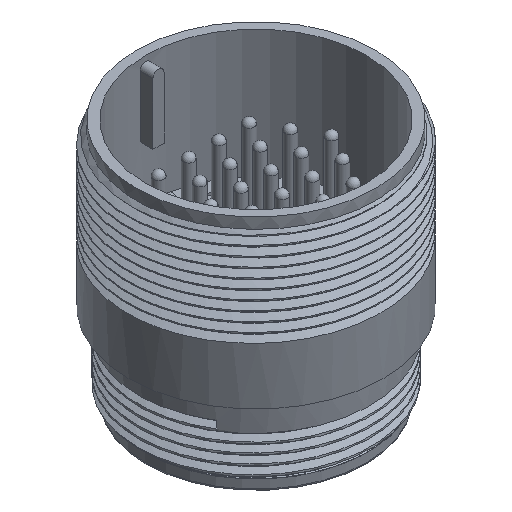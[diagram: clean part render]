
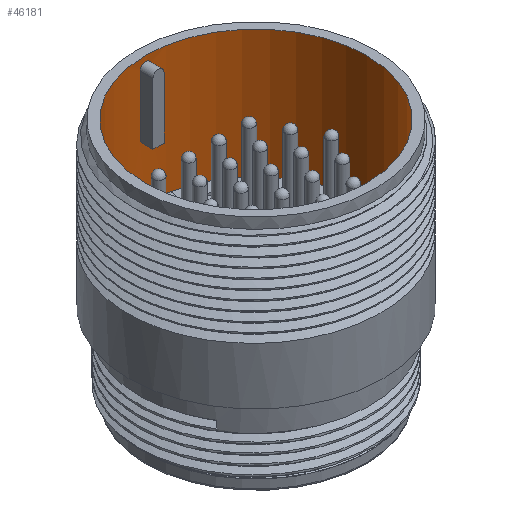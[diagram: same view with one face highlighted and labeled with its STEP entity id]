
A CAD part, isometric view. The second image highlights one B-rep face of the part: STEP entity #46181.
In plain terms, the highlighted cylindrical face has radius 16.575 mm (diameter 33.15 mm), a full revolution.
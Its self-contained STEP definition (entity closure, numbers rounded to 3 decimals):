
#277 = CIRCLE ( 'NONE', #13730, 16.575 ) ;
#757 = CARTESIAN_POINT ( 'NONE',  ( -0.66, 16.562, -1.118 ) ) ;
#2590 = EDGE_LOOP ( 'NONE', ( #6281, #37907, #36867, #41567 ) ) ;
#3984 = FACE_OUTER_BOUND ( 'NONE', #38656, .T. ) ;
#4445 = ORIENTED_EDGE ( 'NONE', *, *, #4577, .F. ) ;
#4577 = EDGE_CURVE ( 'NONE', #5933, #5933, #277, .T. ) ;
#5230 = VERTEX_POINT ( 'NONE', #20780 ) ;
#5914 = FACE_BOUND ( 'NONE', #2590, .T. ) ;
#5933 = VERTEX_POINT ( 'NONE', #43631 ) ;
#6281 = ORIENTED_EDGE ( 'NONE', *, *, #32494, .T. ) ;
#8190 = DIRECTION ( 'NONE',  ( 1., 0., 0. ) ) ;
#8261 = DIRECTION ( 'NONE',  ( 0., 0., 1. ) ) ;
#9056 = AXIS2_PLACEMENT_3D ( 'NONE', #32110, #24094, #8190 ) ;
#9218 = CARTESIAN_POINT ( 'NONE',  ( -0.825, 16.554, -10.8 ) ) ;
#10025 = EDGE_CURVE ( 'NONE', #31496, #39162, #48210, .T. ) ;
#10593 = B_SPLINE_CURVE_WITH_KNOTS ( 'NONE', 3,
 ( #48931, #44543, #13153, #40375, #757, #16475, #28683, #36722, #24505, #20504, #48414, #41746, #45755, #41904 ),
 .UNSPECIFIED., .F., .F.,
 ( 4, 2, 2, 2, 2, 2, 4 ),
 ( -0.001, -0.001, -0.001, 0., 0., 0.001, 0.001 ),
 .UNSPECIFIED. ) ;
#10674 = AXIS2_PLACEMENT_3D ( 'NONE', #21632, #41657, #21442 ) ;
#13153 = CARTESIAN_POINT ( 'NONE',  ( -0.804, 16.556, -1.409 ) ) ;
#13730 = AXIS2_PLACEMENT_3D ( 'NONE', #48417, #8261, #28519 ) ;
#16475 = CARTESIAN_POINT ( 'NONE',  ( -0.432, 16.57, -0.89 ) ) ;
#16775 = CARTESIAN_POINT ( 'NONE',  ( 16.575, 0., 0. ) ) ;
#16862 = CARTESIAN_POINT ( 'NONE',  ( -0.825, 16.554, -1.625 ) ) ;
#17714 = CIRCLE ( 'NONE', #9056, 16.575 ) ;
#17768 = CYLINDRICAL_SURFACE ( 'NONE', #33826, 16.575 ) ;
#20504 = CARTESIAN_POINT ( 'NONE',  ( 0.416, 16.57, -0.904 ) ) ;
#20780 = CARTESIAN_POINT ( 'NONE',  ( 0.825, 16.554, -10.8 ) ) ;
#21038 = VERTEX_POINT ( 'NONE', #36612 ) ;
#21442 = DIRECTION ( 'NONE',  ( 1., 0., 0. ) ) ;
#21632 = CARTESIAN_POINT ( 'NONE',  ( 0., 0., -10.8 ) ) ;
#23293 = VERTEX_POINT ( 'NONE', #16775 ) ;
#24094 = DIRECTION ( 'NONE',  ( 0., 0., 1. ) ) ;
#24505 = CARTESIAN_POINT ( 'NONE',  ( 0.216, 16.574, -0.821 ) ) ;
#24543 = EDGE_CURVE ( 'NONE', #5230, #21038, #40804, .T. ) ;
#25627 = EDGE_CURVE ( 'NONE', #39162, #21038, #10593, .T. ) ;
#26391 = VECTOR ( 'NONE', #26750, 1000. ) ;
#26750 = DIRECTION ( 'NONE',  ( 0., 0., 1. ) ) ;
#26784 = CARTESIAN_POINT ( 'NONE',  ( 0., 0., 0. ) ) ;
#28519 = DIRECTION ( 'NONE',  ( 1., 0., 0. ) ) ;
#28683 = CARTESIAN_POINT ( 'NONE',  ( -0.218, 16.575, -0.8 ) ) ;
#30106 = DIRECTION ( 'NONE',  ( 0., 0., 1. ) ) ;
#31496 = VERTEX_POINT ( 'NONE', #9218 ) ;
#32110 = CARTESIAN_POINT ( 'NONE',  ( 0., 0., 0. ) ) ;
#32494 = EDGE_CURVE ( 'NONE', #5230, #31496, #47551, .T. ) ;
#33826 = AXIS2_PLACEMENT_3D ( 'NONE', #26784, #30106, #50180 ) ;
#36499 = FACE_OUTER_BOUND ( 'NONE', #42215, .T. ) ;
#36612 = CARTESIAN_POINT ( 'NONE',  ( 0.825, 16.554, -1.625 ) ) ;
#36722 = CARTESIAN_POINT ( 'NONE',  ( 0.109, 16.575, -0.8 ) ) ;
#36867 = ORIENTED_EDGE ( 'NONE', *, *, #25627, .T. ) ;
#37907 = ORIENTED_EDGE ( 'NONE', *, *, #10025, .T. ) ;
#38656 = EDGE_LOOP ( 'NONE', ( #50194 ) ) ;
#39162 = VERTEX_POINT ( 'NONE', #16862 ) ;
#40375 = CARTESIAN_POINT ( 'NONE',  ( -0.721, 16.559, -1.209 ) ) ;
#40804 = LINE ( 'NONE', #45194, #50797 ) ;
#41567 = ORIENTED_EDGE ( 'NONE', *, *, #24543, .F. ) ;
#41657 = DIRECTION ( 'NONE',  ( 0., 0., 1. ) ) ;
#41746 = CARTESIAN_POINT ( 'NONE',  ( 0.735, 16.559, -1.193 ) ) ;
#41904 = CARTESIAN_POINT ( 'NONE',  ( 0.825, 16.554, -1.625 ) ) ;
#42215 = EDGE_LOOP ( 'NONE', ( #4445 ) ) ;
#43631 = CARTESIAN_POINT ( 'NONE',  ( 16.575, 0., -19.18 ) ) ;
#44543 = CARTESIAN_POINT ( 'NONE',  ( -0.825, 16.554, -1.516 ) ) ;
#45194 = CARTESIAN_POINT ( 'NONE',  ( 0.825, 16.554, -10.8 ) ) ;
#45755 = CARTESIAN_POINT ( 'NONE',  ( 0.825, 16.554, -1.407 ) ) ;
#46181 = ADVANCED_FACE ( 'NONE', ( #3984, #36499, #5914 ), #17768, .F. ) ;
#46641 = CARTESIAN_POINT ( 'NONE',  ( -0.825, 16.554, -10.8 ) ) ;
#46790 = EDGE_CURVE ( 'NONE', #23293, #23293, #17714, .T. ) ;
#47551 = CIRCLE ( 'NONE', #10674, 16.575 ) ;
#48210 = LINE ( 'NONE', #46641, #26391 ) ;
#48414 = CARTESIAN_POINT ( 'NONE',  ( 0.507, 16.567, -0.965 ) ) ;
#48417 = CARTESIAN_POINT ( 'NONE',  ( 0., 0., -19.18 ) ) ;
#48881 = DIRECTION ( 'NONE',  ( 0., 0., 1. ) ) ;
#48931 = CARTESIAN_POINT ( 'NONE',  ( -0.825, 16.554, -1.625 ) ) ;
#50180 = DIRECTION ( 'NONE',  ( 1., 0., 0. ) ) ;
#50194 = ORIENTED_EDGE ( 'NONE', *, *, #46790, .T. ) ;
#50797 = VECTOR ( 'NONE', #48881, 1000. ) ;
